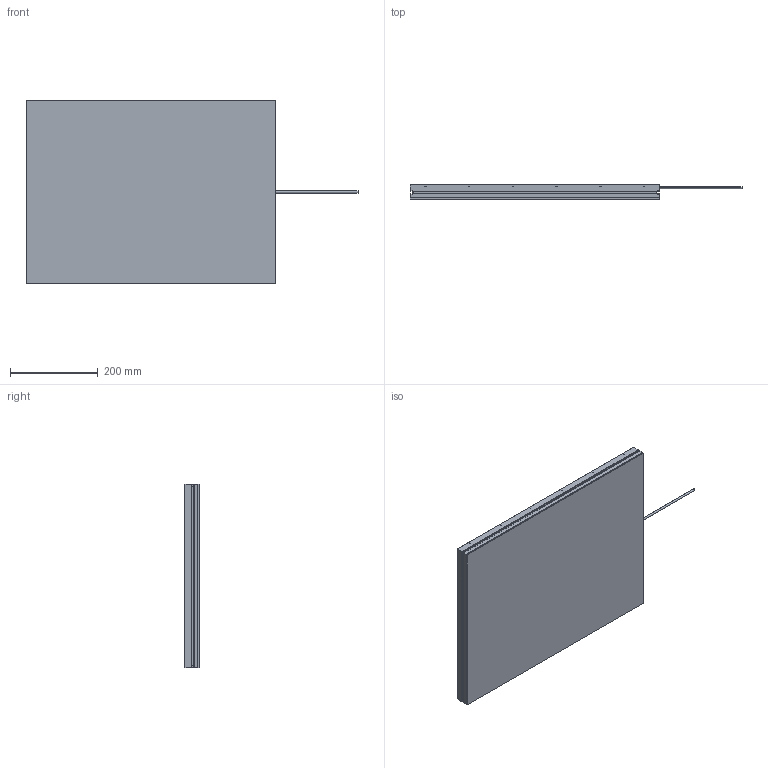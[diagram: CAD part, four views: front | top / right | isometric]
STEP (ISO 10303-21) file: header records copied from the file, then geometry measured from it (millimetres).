
FILE_DESCRIPTION((''),'2;1');
FILE_NAME('P-HFL2-550-400-DIBAN','2021-07-16T',('Administrator'),(''),'PRO/ENGINEER BY PARAMETRIC TECHNOLOGY CORPORATION, 2010100','PRO/ENGINEER BY PARAMETRIC TECHNOLOGY CORPORATION, 2010100','');
FILE_SCHEMA(('CONFIG_CONTROL_DESIGN'));
Length unit declared in the file: millimetre
Products named in the file (1): P-HFL2-550-400-DIBAN
Bounding box: 758.6 x 33 x 420 mm (x, y, z)
Volume: 7129032 mm3; surface area: 1136783.4 mm2
Topology: 1 solids, 13 shells, 187 faces, 502 edges, 332 vertices
Faces by surface type: plane 132, cylinder 53, cone 2
Entity records: 5843 total; most frequent: CARTESIAN_POINT 1022, DIRECTION 990, ORIENTED_EDGE 956, EDGE_CURVE 502, VECTOR 390, LINE 390, VERTEX_POINT 332, AXIS2_PLACEMENT_3D 300
